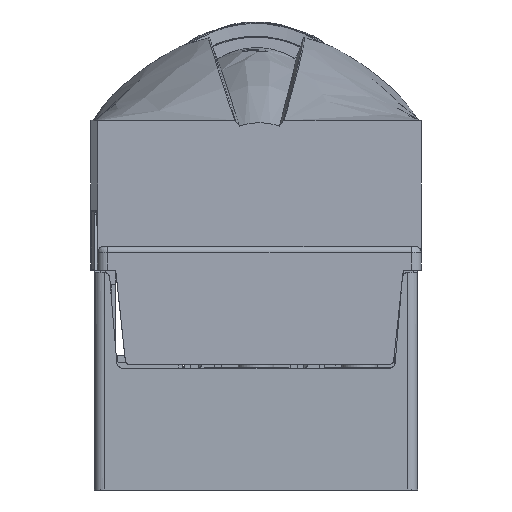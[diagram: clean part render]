
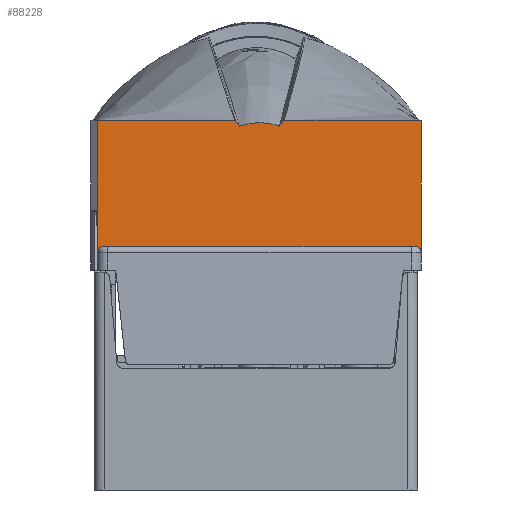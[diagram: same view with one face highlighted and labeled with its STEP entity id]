
A CAD part, left-side view. The second image highlights one B-rep face of the part: STEP entity #88228.
In plain terms, the highlighted planar face has unit normal (-1, -0.009, 0).
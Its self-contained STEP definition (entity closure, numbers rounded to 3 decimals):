
#55 = VECTOR ( 'NONE', #109504, 1000. ) ;
#186 = CARTESIAN_POINT ( 'NONE',  ( 2.519, 37.439, 9.533 ) ) ;
#555 = VECTOR ( 'NONE', #45282, 1000. ) ;
#2044 = CARTESIAN_POINT ( 'NONE',  ( 2.547, 34.149, 8.642 ) ) ;
#3850 = CARTESIAN_POINT ( 'NONE',  ( 2.557, 32.997, 10. ) ) ;
#4004 = VECTOR ( 'NONE', #105149, 1000. ) ;
#4565 = CARTESIAN_POINT ( 'NONE',  ( 2.452, 45.054, 9.871 ) ) ;
#5073 = VERTEX_POINT ( 'NONE', #2044 ) ;
#7456 = VERTEX_POINT ( 'NONE', #25558 ) ;
#8099 = EDGE_CURVE ( 'NONE', #122992, #7456, #117638, .T. ) ;
#9295 = PLANE ( 'NONE',  #74656 ) ;
#9612 = CARTESIAN_POINT ( 'NONE',  ( 2.551, 33.7, 9.252 ) ) ;
#10076 = CARTESIAN_POINT ( 'NONE',  ( 2.452, 45.054, 9.871 ) ) ;
#13171 = CIRCLE ( 'NONE', #26123, 1.5 ) ;
#13579 = ORIENTED_EDGE ( 'NONE', *, *, #120174, .T. ) ;
#14483 = DIRECTION ( 'NONE',  ( 1., 0.009, 0. ) ) ;
#15672 = VECTOR ( 'NONE', #41260, 1000. ) ;
#16096 = CARTESIAN_POINT ( 'NONE',  ( 2.555, 33.245, 9.871 ) ) ;
#16134 = CARTESIAN_POINT ( 'NONE',  ( 2.852, -0.728, -21.5 ) ) ;
#17995 = VERTEX_POINT ( 'NONE', #64071 ) ;
#18141 = LINE ( 'NONE', #74441, #4004 ) ;
#18793 = B_SPLINE_CURVE_WITH_KNOTS ( 'NONE', 3,
 ( #40488, #81218, #186, #90467, #81632, #30360 ),
 .UNSPECIFIED., .F., .F.,
 ( 4, 1, 1, 4 ),
 ( 0., 0.003, 0.007, 0.01 ),
 .UNSPECIFIED. ) ;
#18854 = FACE_OUTER_BOUND ( 'NONE', #129814, .T. ) ;
#19241 = EDGE_CURVE ( 'NONE', #78211, #127699, #45798, .T. ) ;
#19496 = B_SPLINE_CURVE_WITH_KNOTS ( 'NONE', 3,
 ( #74203, #114585, #64976, #4565 ),
 .UNSPECIFIED., .F., .F.,
 ( 4, 4 ),
 ( 0., 0. ),
 .UNSPECIFIED. ) ;
#23954 = ORIENTED_EDGE ( 'NONE', *, *, #32737, .F. ) ;
#25558 = CARTESIAN_POINT ( 'NONE',  ( 2.857, -1.349, 10. ) ) ;
#26123 = AXIS2_PLACEMENT_3D ( 'NONE', #103416, #14483, #73563 ) ;
#26580 = CARTESIAN_POINT ( 'NONE',  ( 2.844, 0.151, -21.5 ) ) ;
#26712 = CARTESIAN_POINT ( 'NONE',  ( 2.844, 0.151, -21.5 ) ) ;
#28365 = DIRECTION ( 'NONE',  ( 0., 0., -1. ) ) ;
#28540 = VECTOR ( 'NONE', #57666, 1000. ) ;
#30360 = CARTESIAN_POINT ( 'NONE',  ( 2.46, 44.149, 8.642 ) ) ;
#31268 = VECTOR ( 'NONE', #96033, 1000. ) ;
#31468 = VERTEX_POINT ( 'NONE', #46206 ) ;
#32422 = CARTESIAN_POINT ( 'NONE',  ( 2.15, 79.648, -25. ) ) ;
#32737 = EDGE_CURVE ( 'NONE', #117319, #74009, #127418, .T. ) ;
#37225 = CARTESIAN_POINT ( 'NONE',  ( 2.857, -1.349, -25. ) ) ;
#38475 = VERTEX_POINT ( 'NONE', #26712 ) ;
#40257 = ORIENTED_EDGE ( 'NONE', *, *, #46522, .T. ) ;
#40488 = CARTESIAN_POINT ( 'NONE',  ( 2.547, 34.149, 8.642 ) ) ;
#40916 = CARTESIAN_POINT ( 'NONE',  ( 2.46, 44.149, 8.642 ) ) ;
#41260 = DIRECTION ( 'NONE',  ( 0.009, -1., 0. ) ) ;
#45028 = ORIENTED_EDGE ( 'NONE', *, *, #19241, .F. ) ;
#45282 = DIRECTION ( 'NONE',  ( -0.009, 1., 0. ) ) ;
#45798 = B_SPLINE_CURVE_WITH_KNOTS ( 'NONE', 3,
 ( #129526, #99361, #60677, #60242 ),
 .UNSPECIFIED., .F., .F.,
 ( 4, 4 ),
 ( 0., 0. ),
 .UNSPECIFIED. ) ;
#46206 = CARTESIAN_POINT ( 'NONE',  ( 2.163, 78.148, -21.5 ) ) ;
#46522 = EDGE_CURVE ( 'NONE', #17995, #31468, #13171, .T. ) ;
#47379 = EDGE_CURVE ( 'NONE', #5073, #98590, #18793, .T. ) ;
#48472 = CARTESIAN_POINT ( 'NONE',  ( 2.3, 62.514, 10. ) ) ;
#49376 = ORIENTED_EDGE ( 'NONE', *, *, #8099, .T. ) ;
#51587 = ORIENTED_EDGE ( 'NONE', *, *, #53281, .T. ) ;
#53127 = EDGE_CURVE ( 'NONE', #31468, #38475, #123888, .T. ) ;
#53281 = EDGE_CURVE ( 'NONE', #78211, #5073, #72046, .T. ) ;
#57666 = DIRECTION ( 'NONE',  ( 0.009, -1., 0. ) ) ;
#60242 = CARTESIAN_POINT ( 'NONE',  ( 2.557, 32.997, 10. ) ) ;
#60677 = CARTESIAN_POINT ( 'NONE',  ( 2.557, 33.094, 10. ) ) ;
#64071 = CARTESIAN_POINT ( 'NONE',  ( 2.15, 79.648, -23. ) ) ;
#64498 = CARTESIAN_POINT ( 'NONE',  ( 2.15, 79.648, 10. ) ) ;
#64976 = CARTESIAN_POINT ( 'NONE',  ( 2.452, 45.111, 9.949 ) ) ;
#67957 = EDGE_CURVE ( 'NONE', #117319, #17995, #124073, .T. ) ;
#68812 = ORIENTED_EDGE ( 'NONE', *, *, #109484, .T. ) ;
#70137 = DIRECTION ( 'NONE',  ( -1., -0.009, 0. ) ) ;
#70379 = ORIENTED_EDGE ( 'NONE', *, *, #67957, .T. ) ;
#72046 = LINE ( 'NONE', #9612, #55 ) ;
#72152 = ORIENTED_EDGE ( 'NONE', *, *, #91878, .T. ) ;
#73563 = DIRECTION ( 'NONE',  ( 0., 0., 1. ) ) ;
#74009 = VERTEX_POINT ( 'NONE', #107173 ) ;
#74203 = CARTESIAN_POINT ( 'NONE',  ( 2.45, 45.302, 10. ) ) ;
#74441 = CARTESIAN_POINT ( 'NONE',  ( 2.46, 44.149, 8.642 ) ) ;
#74656 = AXIS2_PLACEMENT_3D ( 'NONE', #32422, #70137, #120144 ) ;
#75387 = VECTOR ( 'NONE', #28365, 1000. ) ;
#75917 = CARTESIAN_POINT ( 'NONE',  ( 2.15, 79.648, 10. ) ) ;
#78211 = VERTEX_POINT ( 'NONE', #16096 ) ;
#81218 = CARTESIAN_POINT ( 'NONE',  ( 2.538, 35.217, 9.02 ) ) ;
#81632 = CARTESIAN_POINT ( 'NONE',  ( 2.469, 43.081, 9.02 ) ) ;
#85375 = CARTESIAN_POINT ( 'NONE',  ( 2.857, -1.349, -23. ) ) ;
#86168 = ORIENTED_EDGE ( 'NONE', *, *, #47379, .T. ) ;
#88228 = ADVANCED_FACE ( 'NONE', ( #18854 ), #9295, .T. ) ;
#90467 = CARTESIAN_POINT ( 'NONE',  ( 2.489, 40.86, 9.533 ) ) ;
#91878 = EDGE_CURVE ( 'NONE', #38475, #122992, #127763, .T. ) ;
#93954 = VERTEX_POINT ( 'NONE', #10076 ) ;
#95989 = CARTESIAN_POINT ( 'NONE',  ( 2.15, 79.648, -25. ) ) ;
#96033 = DIRECTION ( 'NONE',  ( 0., 0., 1. ) ) ;
#98590 = VERTEX_POINT ( 'NONE', #40916 ) ;
#99361 = CARTESIAN_POINT ( 'NONE',  ( 2.556, 33.187, 9.949 ) ) ;
#103416 = CARTESIAN_POINT ( 'NONE',  ( 2.163, 78.148, -23. ) ) ;
#105149 = DIRECTION ( 'NONE',  ( -0.005, 0.593, 0.805 ) ) ;
#107173 = CARTESIAN_POINT ( 'NONE',  ( 2.45, 45.302, 10. ) ) ;
#107231 = CARTESIAN_POINT ( 'NONE',  ( 2.857, -1.349, -22.121 ) ) ;
#109484 = EDGE_CURVE ( 'NONE', #98590, #93954, #18141, .T. ) ;
#109504 = DIRECTION ( 'NONE',  ( -0.005, 0.593, -0.805 ) ) ;
#110545 = CARTESIAN_POINT ( 'NONE',  ( 2.15, 79.648, -21.5 ) ) ;
#112610 = ORIENTED_EDGE ( 'NONE', *, *, #115160, .F. ) ;
#114585 = CARTESIAN_POINT ( 'NONE',  ( 2.451, 45.204, 10. ) ) ;
#114965 = CARTESIAN_POINT ( 'NONE',  ( 2.857, -1.349, -23. ) ) ;
#115160 = EDGE_CURVE ( 'NONE', #74009, #93954, #19496, .T. ) ;
#117319 = VERTEX_POINT ( 'NONE', #64498 ) ;
#117638 = LINE ( 'NONE', #37225, #31268 ) ;
#120144 = DIRECTION ( 'NONE',  ( 0., 0., -1. ) ) ;
#120174 = EDGE_CURVE ( 'NONE', #7456, #127699, #129141, .T. ) ;
#122948 = ORIENTED_EDGE ( 'NONE', *, *, #53127, .T. ) ;
#122992 = VERTEX_POINT ( 'NONE', #114965 ) ;
#123888 = LINE ( 'NONE', #110545, #15672 ) ;
#124073 = LINE ( 'NONE', #95989, #75387 ) ;
#127418 = LINE ( 'NONE', #48472, #28540 ) ;
#127699 = VERTEX_POINT ( 'NONE', #3850 ) ;
#127763 =( BOUNDED_CURVE ( )  B_SPLINE_CURVE ( 3, ( #26580, #16134, #107231, #85375 ),
 .UNSPECIFIED., .F., .F. ) 
 B_SPLINE_CURVE_WITH_KNOTS ( ( 4, 4 ),
 ( 0., 0.002 ),
 .UNSPECIFIED. ) 
 CURVE ( )  GEOMETRIC_REPRESENTATION_ITEM ( )  RATIONAL_B_SPLINE_CURVE ( ( 1.373, 1.105, 1.105, 1.373 ) ) 
 REPRESENTATION_ITEM ( '' )  );
#129141 = LINE ( 'NONE', #75917, #555 ) ;
#129526 = CARTESIAN_POINT ( 'NONE',  ( 2.555, 33.245, 9.871 ) ) ;
#129814 = EDGE_LOOP ( 'NONE', ( #13579, #45028, #51587, #86168, #68812, #112610, #23954, #70379, #40257, #122948, #72152, #49376 ) ) ;
